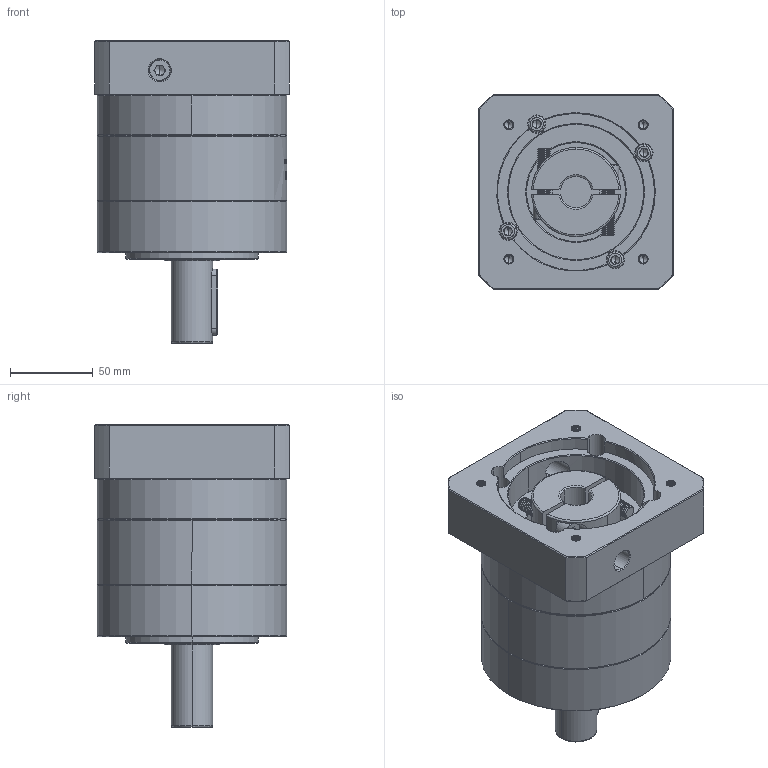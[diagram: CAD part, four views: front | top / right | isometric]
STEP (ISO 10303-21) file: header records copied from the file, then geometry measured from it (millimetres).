
FILE_DESCRIPTION (( 'STEP AP214' ), '1' );
FILE_NAME ('ZE120A-D25-L1-19-95-115-M6.step', '2023-03-09T06:21:58', ( '' ), ( '' ), 'SwSTEP 2.0', 'SolidWorks 2016', '' );
FILE_SCHEMA (( 'AUTOMOTIVE_DESIGN' ));
Length unit declared in the file: millimetre
Products named in the file (1): ZE120A-D25-L1-19-95-115-M6
Bounding box: 118 x 118 x 183.5 mm (x, y, z)
Volume: 1305049.6 mm3; surface area: 152522.6 mm2
Topology: 6 solids, 6 shells, 2044 faces, 5406 edges, 3455 vertices
Faces by surface type: plane 836, cylinder 519, bspline 353, cone 336
Entity records: 118302 total; most frequent: CARTESIAN_POINT 49792, ORIENTED_EDGE 10736, DIRECTION 8094, EDGE_CURVE 5368, VERTEX_POINT 3455, LINE 2804, VECTOR 2804, AXIS2_PLACEMENT_3D 2645
